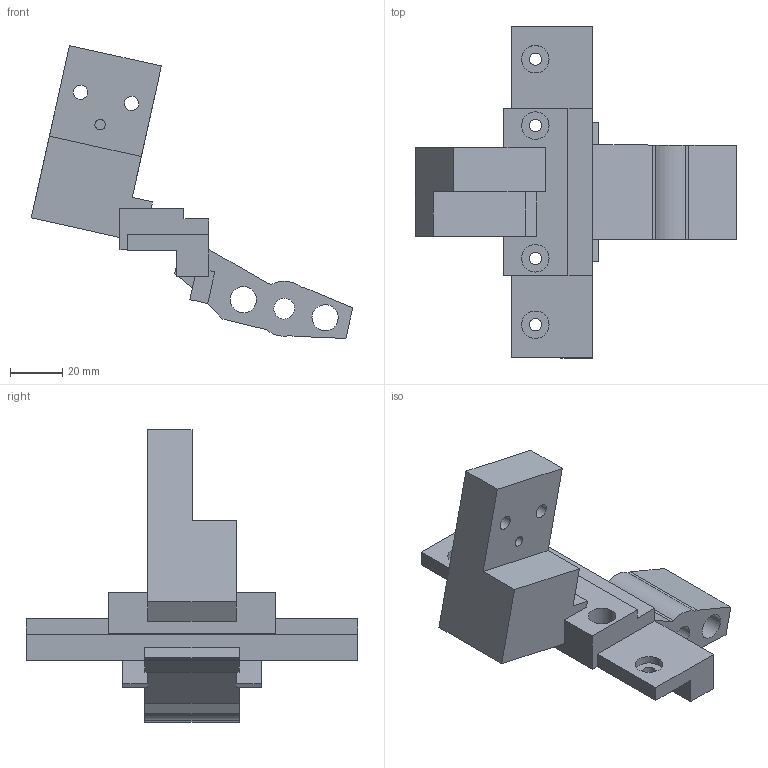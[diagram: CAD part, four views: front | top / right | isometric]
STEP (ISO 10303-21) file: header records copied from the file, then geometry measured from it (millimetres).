
FILE_DESCRIPTION(('Open CASCADE Model'),'2;1');
FILE_NAME('Open CASCADE Shape Model','2026-10-16T05:25:08',('Author'),( 'Open CASCADE'),'Open CASCADE STEP processor 7.9','Open CASCADE 7.9' ,'Unknown');
FILE_SCHEMA(('AUTOMOTIVE_DESIGN { 1 0 10303 214 1 1 1 1 }'));
Length unit declared in the file: millimetre
Products named in the file (1): Open CASCADE STEP translator 7.9 1
Bounding box: 122.96 x 127 x 112.05 mm (x, y, z)
Volume: 148202.4 mm3; surface area: 36314.1 mm2
Topology: 1 solids, 1 shells, 82 faces, 217 edges, 144 vertices
Faces by surface type: plane 66, cylinder 16
Full cylindrical faces by diameter (mm): 4 x1, 4.7 x4, 5.5 x2, 7.94 x1, 10 x2, 10.5 x4
Entity records: 5347 total; most frequent: CARTESIAN_POINT 1122, DIRECTION 720, LINE 481, VECTOR 481, ORIENTED_EDGE 434, PCURVE 434, DEFINITIONAL_REPRESENTATION 434, EDGE_CURVE 217
